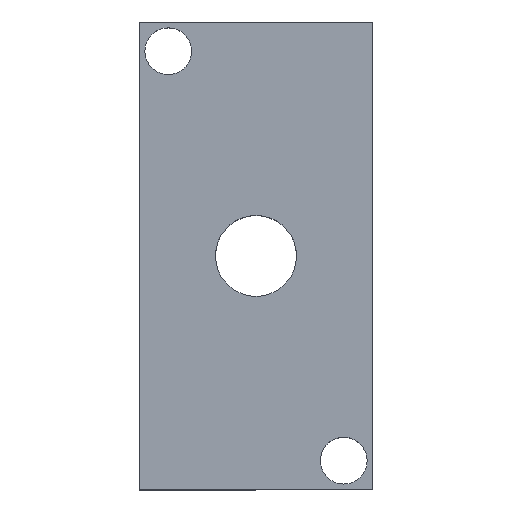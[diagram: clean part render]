
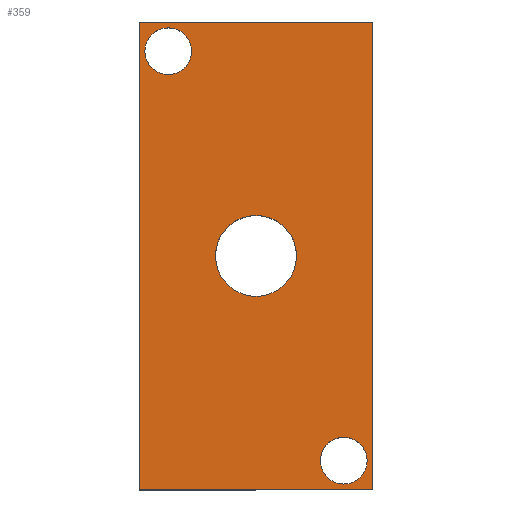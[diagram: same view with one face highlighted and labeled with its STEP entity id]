
A CAD part, top view. The second image highlights one B-rep face of the part: STEP entity #359.
In plain terms, the highlighted planar face has unit normal (0, 0, 1).
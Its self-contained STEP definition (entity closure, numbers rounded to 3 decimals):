
#105=CARTESIAN_POINT('',(10.271,-16.916,8.0));
#106=VERTEX_POINT('',#105);
#107=CARTESIAN_POINT('',(3.353,-16.916,8.));
#108=DIRECTION('',(0.0,0.0,-1.0));
#109=DIRECTION('',(1.0,0.0,0.0));
#110=AXIS2_PLACEMENT_3D('',#107,#108,#109);
#111=CIRCLE('',#110,6.918);
#112=EDGE_CURVE('',#106,#106,#111,.T.);
#154=CARTESIAN_POINT('',(22.353,-51.916,8.0));
#155=VERTEX_POINT('',#154);
#156=CARTESIAN_POINT('',(18.353,-51.916,8.));
#157=DIRECTION('',(0.0,0.0,-1.0));
#158=DIRECTION('',(1.0,0.0,0.0));
#159=AXIS2_PLACEMENT_3D('',#156,#157,#158);
#160=CIRCLE('',#159,4.0);
#161=EDGE_CURVE('',#155,#155,#160,.T.);
#203=CARTESIAN_POINT('',(-7.647,18.084,8.0));
#204=VERTEX_POINT('',#203);
#205=CARTESIAN_POINT('',(-11.647,18.084,8.));
#206=DIRECTION('',(0.0,0.0,-1.0));
#207=DIRECTION('',(1.0,0.0,0.0));
#208=AXIS2_PLACEMENT_3D('',#205,#206,#207);
#209=CIRCLE('',#208,4.0);
#210=EDGE_CURVE('',#204,#204,#209,.T.);
#220=CARTESIAN_POINT('',(23.353,23.084,8.0));
#221=VERTEX_POINT('',#220);
#222=CARTESIAN_POINT('',(23.353,-56.916,8.0));
#223=VERTEX_POINT('',#222);
#224=CARTESIAN_POINT('',(23.353,23.084,8.0));
#225=DIRECTION('',(0.0,-1.0,0.0));
#226=VECTOR('',#225,80.);
#227=LINE('',#224,#226);
#228=EDGE_CURVE('',#221,#223,#227,.T.);
#260=CARTESIAN_POINT('',(-16.647,-56.916,8.0));
#261=VERTEX_POINT('',#260);
#262=CARTESIAN_POINT('',(23.353,-56.916,8.0));
#263=DIRECTION('',(-1.0,0.0,0.0));
#264=VECTOR('',#263,40.);
#265=LINE('',#262,#264);
#266=EDGE_CURVE('',#223,#261,#265,.T.);
#291=CARTESIAN_POINT('',(-16.647,23.084,8.0));
#292=VERTEX_POINT('',#291);
#293=CARTESIAN_POINT('',(-16.647,-56.916,8.0));
#294=DIRECTION('',(0.0,1.0,0.0));
#295=VECTOR('',#294,80.0);
#296=LINE('',#293,#295);
#297=EDGE_CURVE('',#261,#292,#296,.T.);
#322=CARTESIAN_POINT('',(-16.647,23.084,8.0));
#323=DIRECTION('',(1.0,0.0,0.0));
#324=VECTOR('',#323,40.);
#325=LINE('',#322,#324);
#326=EDGE_CURVE('',#292,#221,#325,.T.);
#339=CARTESIAN_POINT('',(3.353,-16.916,8.0));
#340=DIRECTION('',(0.0,0.0,1.0));
#341=DIRECTION('',(1.0,0.0,0.0));
#342=AXIS2_PLACEMENT_3D('',#339,#340,#341);
#343=PLANE('',#342);
#344=ORIENTED_EDGE('',*,*,#228,.F.);
#345=ORIENTED_EDGE('',*,*,#326,.F.);
#346=ORIENTED_EDGE('',*,*,#297,.F.);
#347=ORIENTED_EDGE('',*,*,#266,.F.);
#348=EDGE_LOOP('',(#344,#345,#346,#347));
#349=FACE_OUTER_BOUND('',#348,.T.);
#350=ORIENTED_EDGE('',*,*,#112,.T.);
#351=EDGE_LOOP('',(#350));
#352=FACE_BOUND('',#351,.T.);
#353=ORIENTED_EDGE('',*,*,#161,.T.);
#354=EDGE_LOOP('',(#353));
#355=FACE_BOUND('',#354,.T.);
#356=ORIENTED_EDGE('',*,*,#210,.T.);
#357=EDGE_LOOP('',(#356));
#358=FACE_BOUND('',#357,.T.);
#359=ADVANCED_FACE('',(#349,#352,#355,#358),#343,.T.);
